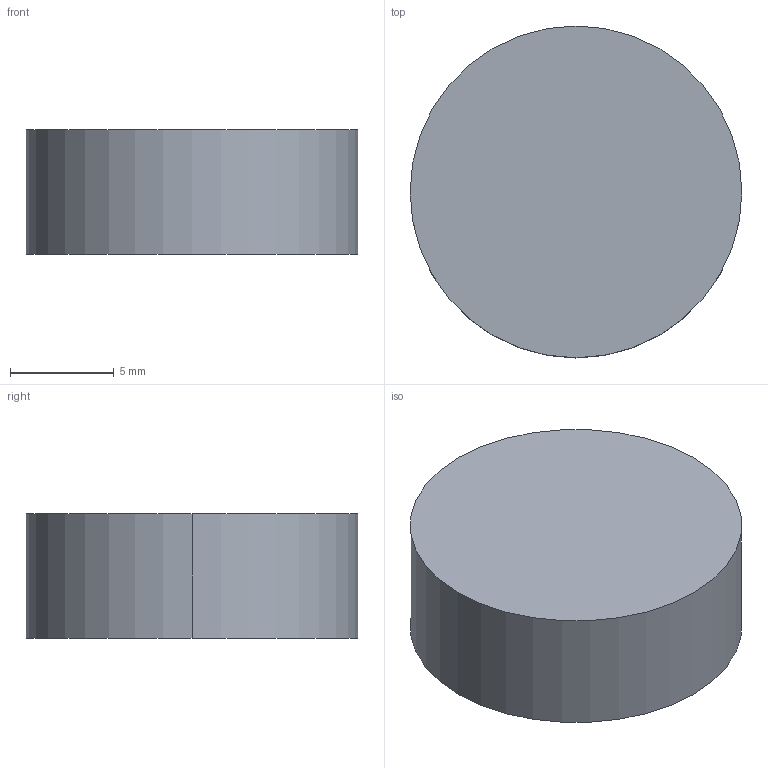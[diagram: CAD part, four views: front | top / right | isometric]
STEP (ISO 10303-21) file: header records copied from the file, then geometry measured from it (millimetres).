
FILE_DESCRIPTION (( 'STEP AP203' ), '1' );
FILE_NAME ('REF_rubber_foot_16x6.step', '2026-10-07T08:23:33', ( '' ), ( '' ), 'SwSTEP 2.0', 'SolidWorks 2025', '' );
FILE_SCHEMA (( 'CONFIG_CONTROL_DESIGN' ));
Length unit declared in the file: millimetre
Products named in the file (1): REF_rubber_foot_16x6
Bounding box: 16 x 16 x 6 mm (x, y, z)
Volume: 1206.4 mm3; surface area: 703.7 mm2
Topology: 1 solids, 1 shells, 4 faces, 6 edges, 4 vertices
Faces by surface type: cylinder 2, plane 2
Entity records: 171 total; most frequent: DIRECTION 20, CARTESIAN_POINT 15, ORIENTED_EDGE 12, AXIS2_PLACEMENT_3D 9, PERSON_AND_ORGANIZATION 8, EDGE_CURVE 6, COORDINATED_UNIVERSAL_TIME_OFFSET 5, CC_DESIGN_PERSON_AND_ORGANIZATION_ASSIGNMENT 5
